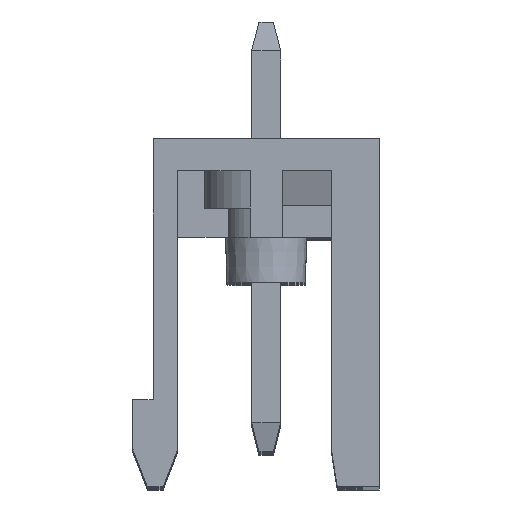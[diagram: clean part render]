
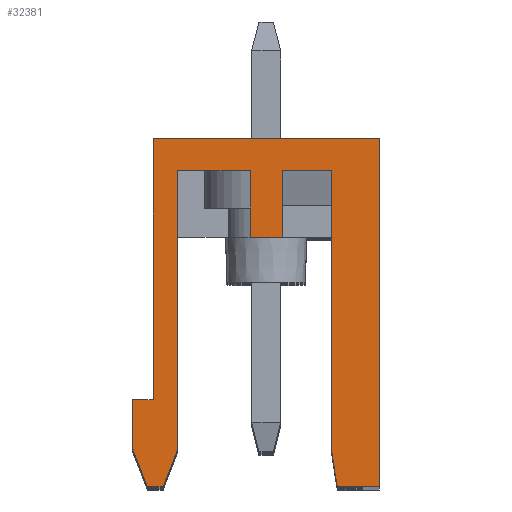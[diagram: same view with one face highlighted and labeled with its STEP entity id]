
A CAD part, top view. The second image highlights one B-rep face of the part: STEP entity #32381.
In plain terms, the highlighted planar face has unit normal (0, 0, 1).
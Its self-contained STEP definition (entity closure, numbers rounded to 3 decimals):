
#71 = VECTOR ( 'NONE', #22953, 1000. ) ;
#97 = DIRECTION ( 'NONE',  ( -1., 0., 0. ) ) ;
#380 = VERTEX_POINT ( 'NONE', #30155 ) ;
#417 = LINE ( 'NONE', #25648, #9422 ) ;
#429 = VECTOR ( 'NONE', #17530, 1000. ) ;
#572 = VECTOR ( 'NONE', #31616, 1000. ) ;
#674 = EDGE_CURVE ( 'NONE', #9677, #11502, #22207, .T. ) ;
#1012 = VERTEX_POINT ( 'NONE', #6834 ) ;
#1291 = FACE_OUTER_BOUND ( 'NONE', #14539, .T. ) ;
#1299 = DIRECTION ( 'NONE',  ( 0., -1., 0. ) ) ;
#1671 = EDGE_CURVE ( 'NONE', #3403, #31040, #24292, .T. ) ;
#1701 = ORIENTED_EDGE ( 'NONE', *, *, #674, .T. ) ;
#2141 = CARTESIAN_POINT ( 'NONE',  ( 2.25, 10.9, 66.04 ) ) ;
#2392 = DIRECTION ( 'NONE',  ( 1., 0., 0. ) ) ;
#2865 = VERTEX_POINT ( 'NONE', #26647 ) ;
#3236 = EDGE_CURVE ( 'NONE', #4515, #11502, #21139, .T. ) ;
#3289 = EDGE_CURVE ( 'NONE', #28821, #9677, #26885, .T. ) ;
#3356 = ORIENTED_EDGE ( 'NONE', *, *, #31073, .T. ) ;
#3357 = VERTEX_POINT ( 'NONE', #2141 ) ;
#3403 = VERTEX_POINT ( 'NONE', #4783 ) ;
#3695 = DIRECTION ( 'NONE',  ( -1., 0., 0. ) ) ;
#3939 = CARTESIAN_POINT ( 'NONE',  ( -3.9, 12., 66.04 ) ) ;
#4098 = EDGE_CURVE ( 'NONE', #1012, #3357, #24345, .T. ) ;
#4319 = CARTESIAN_POINT ( 'NONE',  ( -0.55, 8.6, 66.04 ) ) ;
#4408 = CARTESIAN_POINT ( 'NONE',  ( -4.6, 3., 66.04 ) ) ;
#4515 = VERTEX_POINT ( 'NONE', #7142 ) ;
#4708 = VECTOR ( 'NONE', #2392, 1000. ) ;
#4783 = CARTESIAN_POINT ( 'NONE',  ( 3.9, 12., 66.04 ) ) ;
#4981 = VECTOR ( 'NONE', #21167, 1000. ) ;
#5005 = LINE ( 'NONE', #27431, #21753 ) ;
#5308 = ORIENTED_EDGE ( 'NONE', *, *, #3289, .T. ) ;
#5322 = CARTESIAN_POINT ( 'NONE',  ( 0.55, 8.6, 66.04 ) ) ;
#5507 = ORIENTED_EDGE ( 'NONE', *, *, #25677, .T. ) ;
#5696 = CARTESIAN_POINT ( 'NONE',  ( -0.55, 10.9, 66.04 ) ) ;
#5780 = DIRECTION ( 'NONE',  ( -0.359, -0.933, 0. ) ) ;
#5883 = EDGE_CURVE ( 'NONE', #12622, #1012, #17835, .T. ) ;
#6590 = DIRECTION ( 'NONE',  ( 0.152, -0.988, 0. ) ) ;
#6613 = DIRECTION ( 'NONE',  ( -1., 0., 0. ) ) ;
#6815 = ORIENTED_EDGE ( 'NONE', *, *, #1671, .T. ) ;
#6834 = CARTESIAN_POINT ( 'NONE',  ( 0.55, 10.9, 66.04 ) ) ;
#6873 = DIRECTION ( 'NONE',  ( 0., -1., 0. ) ) ;
#7119 = CARTESIAN_POINT ( 'NONE',  ( 2.25, 1.3, 66.04 ) ) ;
#7142 = CARTESIAN_POINT ( 'NONE',  ( -4.1, 0., 66.04 ) ) ;
#7530 = DIRECTION ( 'NONE',  ( 1., 0., 0. ) ) ;
#8262 = EDGE_CURVE ( 'NONE', #23954, #380, #8321, .T. ) ;
#8321 = LINE ( 'NONE', #5696, #22334 ) ;
#8700 = VECTOR ( 'NONE', #1299, 1000. ) ;
#8790 = CARTESIAN_POINT ( 'NONE',  ( 3.9, 12., 66.04 ) ) ;
#9209 = CARTESIAN_POINT ( 'NONE',  ( 0.55, 8.6, 66.04 ) ) ;
#9422 = VECTOR ( 'NONE', #13270, 1000. ) ;
#9677 = VERTEX_POINT ( 'NONE', #21790 ) ;
#9805 = CARTESIAN_POINT ( 'NONE',  ( -4.1, 0., 66.04 ) ) ;
#9933 = CARTESIAN_POINT ( 'NONE',  ( 2.45, 0., 66.04 ) ) ;
#9993 = VECTOR ( 'NONE', #6590, 1000. ) ;
#10246 = ORIENTED_EDGE ( 'NONE', *, *, #19129, .T. ) ;
#11371 = LINE ( 'NONE', #19277, #9993 ) ;
#11502 = VERTEX_POINT ( 'NONE', #13149 ) ;
#12027 = CARTESIAN_POINT ( 'NONE',  ( -0.55, 10.9, 66.04 ) ) ;
#12114 = CARTESIAN_POINT ( 'NONE',  ( 0.55, 10.9, 66.04 ) ) ;
#12443 = DIRECTION ( 'NONE',  ( 1., 0., 0. ) ) ;
#12622 = VERTEX_POINT ( 'NONE', #17870 ) ;
#12708 = VECTOR ( 'NONE', #6613, 1000. ) ;
#12887 = CARTESIAN_POINT ( 'NONE',  ( -4.1, 0., 66.04 ) ) ;
#13149 = CARTESIAN_POINT ( 'NONE',  ( -4.6, 1.3, 66.04 ) ) ;
#13270 = DIRECTION ( 'NONE',  ( 0., -1., 0. ) ) ;
#13631 = VERTEX_POINT ( 'NONE', #24537 ) ;
#13648 = EDGE_CURVE ( 'NONE', #12622, #27879, #14616, .T. ) ;
#14124 = EDGE_CURVE ( 'NONE', #4515, #28793, #31026, .T. ) ;
#14177 = CARTESIAN_POINT ( 'NONE',  ( -3.9, 3., 66.04 ) ) ;
#14539 = EDGE_LOOP ( 'NONE', ( #5507, #6815, #30857, #5308, #1701, #17840, #14693, #31907, #15082, #16192, #25611, #17668, #31885, #26952, #3356, #27736, #10246 ) ) ;
#14599 = DIRECTION ( 'NONE',  ( 0., 0., 1. ) ) ;
#14616 = LINE ( 'NONE', #9209, #16351 ) ;
#14693 = ORIENTED_EDGE ( 'NONE', *, *, #14124, .T. ) ;
#14752 = VERTEX_POINT ( 'NONE', #17447 ) ;
#15082 = ORIENTED_EDGE ( 'NONE', *, *, #30636, .F. ) ;
#15724 = EDGE_CURVE ( 'NONE', #31040, #28821, #5005, .T. ) ;
#16192 = ORIENTED_EDGE ( 'NONE', *, *, #8262, .F. ) ;
#16351 = VECTOR ( 'NONE', #24690, 1000. ) ;
#16370 = VECTOR ( 'NONE', #12443, 1000. ) ;
#16921 = CARTESIAN_POINT ( 'NONE',  ( -3.9, 3., 66.04 ) ) ;
#16939 = LINE ( 'NONE', #23888, #8700 ) ;
#17447 = CARTESIAN_POINT ( 'NONE',  ( 2.45, 0., 66.04 ) ) ;
#17530 = DIRECTION ( 'NONE',  ( 1., 0., 0. ) ) ;
#17668 = ORIENTED_EDGE ( 'NONE', *, *, #13648, .F. ) ;
#17835 = LINE ( 'NONE', #5322, #32106 ) ;
#17840 = ORIENTED_EDGE ( 'NONE', *, *, #3236, .F. ) ;
#17870 = CARTESIAN_POINT ( 'NONE',  ( 0.55, 8.6, 66.04 ) ) ;
#18229 = AXIS2_PLACEMENT_3D ( 'NONE', #18914, #14599, #7530 ) ;
#18241 = VECTOR ( 'NONE', #3695, 1000. ) ;
#18914 = CARTESIAN_POINT ( 'NONE',  ( -10.2, 16.267, 66.04 ) ) ;
#19129 = EDGE_CURVE ( 'NONE', #14752, #13631, #25117, .T. ) ;
#19277 = CARTESIAN_POINT ( 'NONE',  ( 2.25, 1.3, 66.04 ) ) ;
#20332 = DIRECTION ( 'NONE',  ( 0., -1., 0. ) ) ;
#20631 = CARTESIAN_POINT ( 'NONE',  ( -3.05, 1.3, 66.04 ) ) ;
#20997 = LINE ( 'NONE', #31050, #4981 ) ;
#21139 = LINE ( 'NONE', #12887, #71 ) ;
#21167 = DIRECTION ( 'NONE',  ( 0., -1., 0. ) ) ;
#21214 = EDGE_CURVE ( 'NONE', #30719, #14752, #11371, .T. ) ;
#21753 = VECTOR ( 'NONE', #20332, 1000. ) ;
#21790 = CARTESIAN_POINT ( 'NONE',  ( -4.6, 3., 66.04 ) ) ;
#21950 = EDGE_CURVE ( 'NONE', #23954, #27879, #417, .T. ) ;
#22207 = LINE ( 'NONE', #4408, #30923 ) ;
#22326 = EDGE_CURVE ( 'NONE', #2865, #28793, #26386, .T. ) ;
#22334 = VECTOR ( 'NONE', #97, 1000. ) ;
#22953 = DIRECTION ( 'NONE',  ( -0.359, 0.933, 0. ) ) ;
#22959 = DIRECTION ( 'NONE',  ( 0., 1., 0. ) ) ;
#23879 = LINE ( 'NONE', #26670, #572 ) ;
#23888 = CARTESIAN_POINT ( 'NONE',  ( 2.25, 10.9, 66.04 ) ) ;
#23954 = VERTEX_POINT ( 'NONE', #12027 ) ;
#24292 = LINE ( 'NONE', #8790, #18241 ) ;
#24345 = LINE ( 'NONE', #12114, #4708 ) ;
#24537 = CARTESIAN_POINT ( 'NONE',  ( 3.9, 0., 66.04 ) ) ;
#24690 = DIRECTION ( 'NONE',  ( -1., 0., 0. ) ) ;
#25117 = LINE ( 'NONE', #9933, #429 ) ;
#25611 = ORIENTED_EDGE ( 'NONE', *, *, #21950, .T. ) ;
#25648 = CARTESIAN_POINT ( 'NONE',  ( -0.55, 10.9, 66.04 ) ) ;
#25677 = EDGE_CURVE ( 'NONE', #13631, #3403, #23879, .T. ) ;
#26386 = LINE ( 'NONE', #20631, #30434 ) ;
#26647 = CARTESIAN_POINT ( 'NONE',  ( -3.05, 1.3, 66.04 ) ) ;
#26670 = CARTESIAN_POINT ( 'NONE',  ( 3.9, 0., 66.04 ) ) ;
#26885 = LINE ( 'NONE', #14177, #12708 ) ;
#26952 = ORIENTED_EDGE ( 'NONE', *, *, #4098, .T. ) ;
#27431 = CARTESIAN_POINT ( 'NONE',  ( -3.9, 12., 66.04 ) ) ;
#27736 = ORIENTED_EDGE ( 'NONE', *, *, #21214, .T. ) ;
#27879 = VERTEX_POINT ( 'NONE', #4319 ) ;
#28793 = VERTEX_POINT ( 'NONE', #29297 ) ;
#28821 = VERTEX_POINT ( 'NONE', #16921 ) ;
#29297 = CARTESIAN_POINT ( 'NONE',  ( -3.55, 0., 66.04 ) ) ;
#30155 = CARTESIAN_POINT ( 'NONE',  ( -3.05, 10.9, 66.04 ) ) ;
#30434 = VECTOR ( 'NONE', #5780, 1000. ) ;
#30636 = EDGE_CURVE ( 'NONE', #380, #2865, #20997, .T. ) ;
#30719 = VERTEX_POINT ( 'NONE', #7119 ) ;
#30857 = ORIENTED_EDGE ( 'NONE', *, *, #15724, .T. ) ;
#30923 = VECTOR ( 'NONE', #6873, 1000. ) ;
#31026 = LINE ( 'NONE', #9805, #16370 ) ;
#31040 = VERTEX_POINT ( 'NONE', #3939 ) ;
#31050 = CARTESIAN_POINT ( 'NONE',  ( -3.05, 10.9, 66.04 ) ) ;
#31073 = EDGE_CURVE ( 'NONE', #3357, #30719, #16939, .T. ) ;
#31458 = PLANE ( 'NONE',  #18229 ) ;
#31616 = DIRECTION ( 'NONE',  ( 0., 1., 0. ) ) ;
#31885 = ORIENTED_EDGE ( 'NONE', *, *, #5883, .T. ) ;
#31907 = ORIENTED_EDGE ( 'NONE', *, *, #22326, .F. ) ;
#32106 = VECTOR ( 'NONE', #22959, 1000. ) ;
#32381 = ADVANCED_FACE ( 'NONE', ( #1291 ), #31458, .T. ) ;
